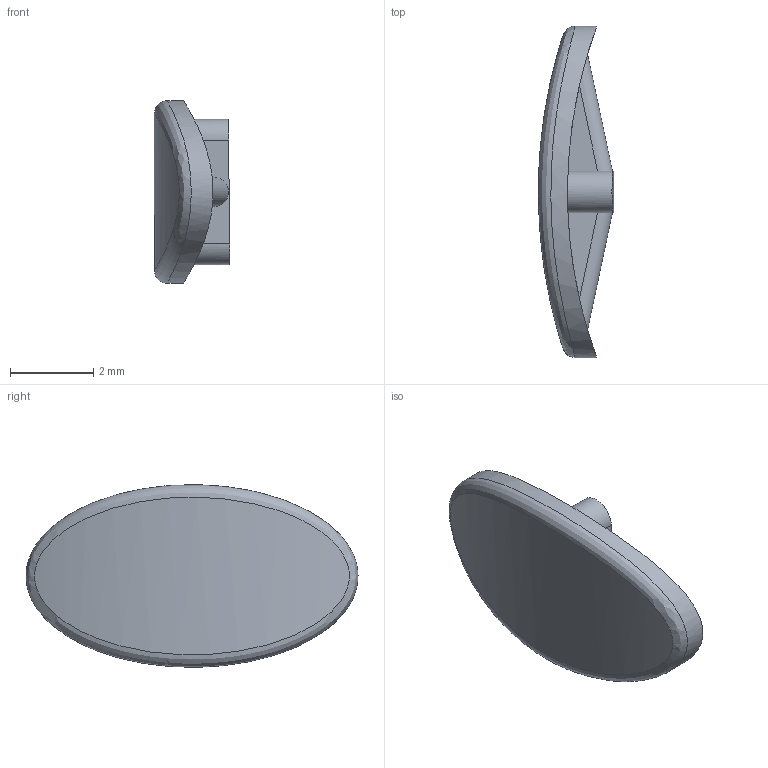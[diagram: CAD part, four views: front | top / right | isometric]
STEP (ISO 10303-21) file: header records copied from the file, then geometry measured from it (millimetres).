
FILE_DESCRIPTION( ( '' ), '1' );
FILE_NAME( 'I:/Projekt/2002/EP0201_Tip Guard/Daten AN-Von/STEP/EP0201_Taster_00.stp', '20.04.2005', ( 'G. Kofler' ), ( 'Greiner Bio-One' ), 'XStep 1.0', 'Solid Edge V16', ' ' );
FILE_SCHEMA( ( 'CONFIG_CONTROL_DESIGN' ) );
Length unit declared in the file: millimetre
Products named in the file (1): 1
Bounding box: 1.81 x 8 x 4.4 mm (x, y, z)
Volume: 24.9 mm3; surface area: 81 mm2
Topology: 1 solids, 1 shells, 15 faces, 35 edges, 23 vertices
Faces by surface type: cylinder 6, plane 6, extrusion 1, bspline 1, cone 1
Entity records: 1753 total; most frequent: CARTESIAN_POINT 1387, ORIENTED_EDGE 66, DIRECTION 59, EDGE_CURVE 33, VERTEX_POINT 23, AXIS2_PLACEMENT_3D 21, EDGE_LOOP 18, FACE_OUTER_BOUND 17
